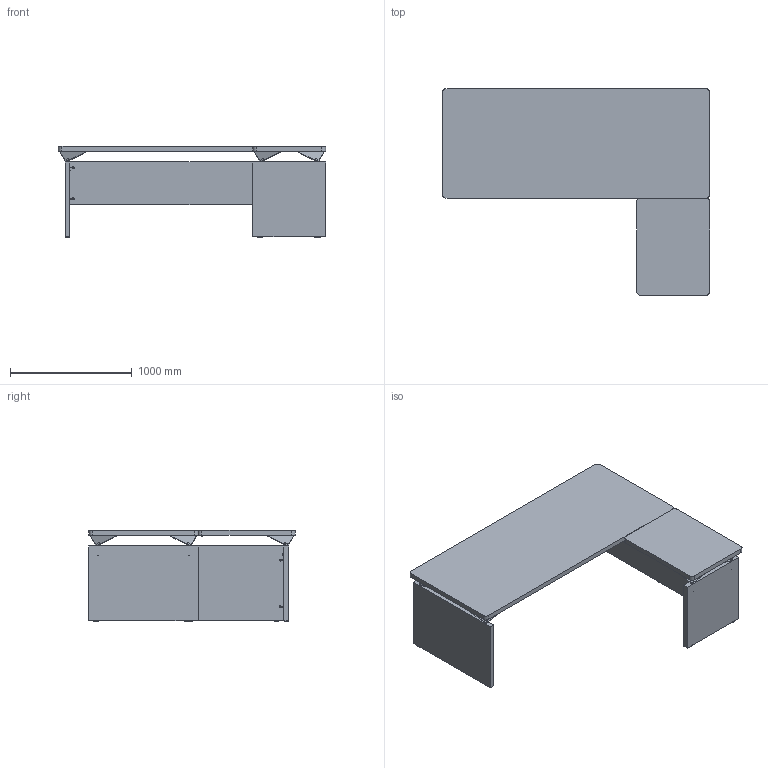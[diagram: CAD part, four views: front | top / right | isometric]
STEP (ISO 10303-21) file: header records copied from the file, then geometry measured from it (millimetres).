
FILE_DESCRIPTION(('STEP AP203'),'2;1');
FILE_NAME('JL126V_JL SCRIV-DIREZ-PANN-2200x1700 DX.stp','2019-05-27T09:16:21',(''),(''),'2018.1.122','THINKDESIGN','');
FILE_SCHEMA(('CONFIG_CONTROL_DESIGN'));
Bounding box: 2200.03 x 1700.03 x 750 mm (x, y, z)
Volume: 188306953.2 mm3; surface area: 11808583 mm2
Topology: 71 solids, 71 shells, 3620 faces, 13861 edges, 12000 vertices
Faces by surface type: plane 2463, cylinder 901, bspline 256
Full cylindrical faces by diameter (mm): 3.7 x6, 4.4 x30, 5 x12, 6 x38, 6.4 x30, 7 x6, 8 x71, 9.2 x14, 10 x7, 14.8 x6, 15 x6, 21 x6, 25 x6, 26 x7, 34 x14
Entity records: 163793 total; most frequent: CARTESIAN_POINT 56483, DIRECTION 25345, ORIENTED_EDGE 11874, AXIS2_PLACEMENT_3D 8874, COMPOSITE_CURVE_SEGMENT 7924, TRIMMED_CURVE 7840, VECTOR 7597, LINE 7597
